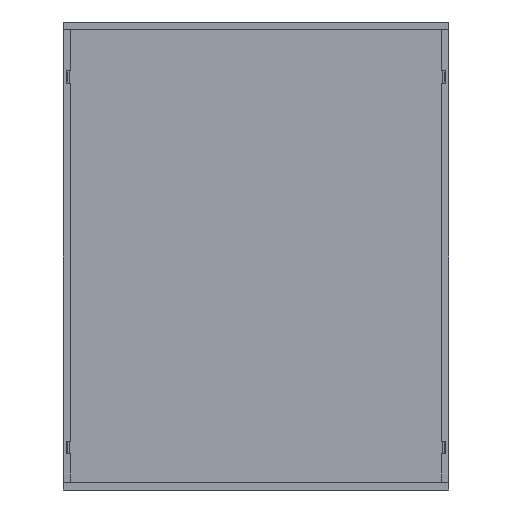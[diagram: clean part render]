
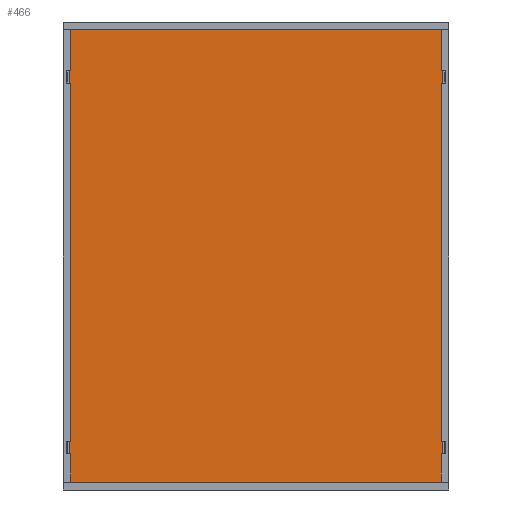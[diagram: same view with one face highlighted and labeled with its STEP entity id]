
A CAD part, front view. The second image highlights one B-rep face of the part: STEP entity #466.
In plain terms, the highlighted planar face has unit normal (0, -1, 0).
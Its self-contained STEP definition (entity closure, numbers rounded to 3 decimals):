
#466=ADVANCED_FACE('',(#694),#3425,.T.);
#694=FACE_OUTER_BOUND('',#924,.T.);
#924=EDGE_LOOP('',(#1383,#1384,#1385,#1386));
#1383=ORIENTED_EDGE('',*,*,#2317,.T.);
#1384=ORIENTED_EDGE('',*,*,#2310,.T.);
#1385=ORIENTED_EDGE('',*,*,#2318,.F.);
#1386=ORIENTED_EDGE('',*,*,#2315,.F.);
#2310=EDGE_CURVE('',#3100,#3103,#2823,.T.);
#2315=EDGE_CURVE('',#3106,#3107,#2828,.T.);
#2317=EDGE_CURVE('',#3106,#3100,#2830,.T.);
#2318=EDGE_CURVE('',#3107,#3103,#2831,.T.);
#2823=B_SPLINE_CURVE_WITH_KNOTS('',1,(#4354,#4355),.UNSPECIFIED.,.F.,.F.,
(2,2),(0.,940.997),.UNSPECIFIED.);
#2828=B_SPLINE_CURVE_WITH_KNOTS('',1,(#4364,#4365),.UNSPECIFIED.,.F.,.F.,
(2,2),(0.,940.997),.UNSPECIFIED.);
#2830=B_SPLINE_CURVE_WITH_KNOTS('',1,(#4368,#4369),.UNSPECIFIED.,.F.,.F.,
(2,2),(781.2,1555.2),.UNSPECIFIED.);
#2831=B_SPLINE_CURVE_WITH_KNOTS('',1,(#4370,#4371),.UNSPECIFIED.,.F.,.F.,
(2,2),(781.2,1555.2),.UNSPECIFIED.);
#3100=VERTEX_POINT('',#4340);
#3103=VERTEX_POINT('',#4343);
#3106=VERTEX_POINT('',#4346);
#3107=VERTEX_POINT('',#4347);
#3425=PLANE('',#3592);
#3592=AXIS2_PLACEMENT_3D('',#4337,#3745,$);
#3745=DIRECTION('',(0.,-1.,0.));
#4337=CARTESIAN_POINT('',(-13.,5.,956.98));
#4340=CARTESIAN_POINT('',(-787.,5.,956.98));
#4343=CARTESIAN_POINT('',(-787.,5.,12.954));
#4346=CARTESIAN_POINT('',(-13.,5.,956.98));
#4347=CARTESIAN_POINT('',(-13.,5.,12.954));
#4354=CARTESIAN_POINT('',(-787.,5.,956.98));
#4355=CARTESIAN_POINT('',(-787.,5.,12.954));
#4364=CARTESIAN_POINT('',(-13.,5.,956.98));
#4365=CARTESIAN_POINT('',(-13.,5.,12.954));
#4368=CARTESIAN_POINT('',(-13.,5.,956.98));
#4369=CARTESIAN_POINT('',(-787.,5.,956.98));
#4370=CARTESIAN_POINT('',(-13.,5.,12.954));
#4371=CARTESIAN_POINT('',(-787.,5.,12.954));
